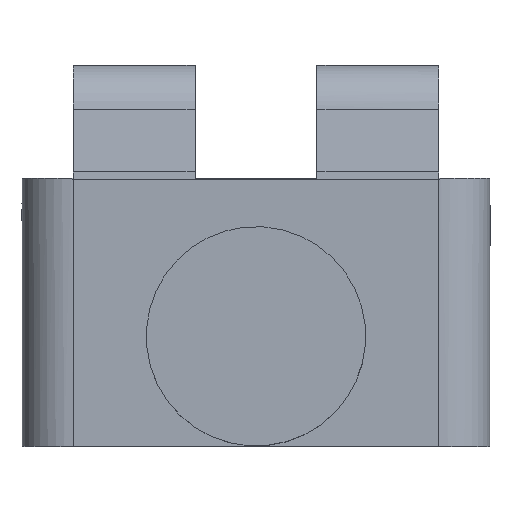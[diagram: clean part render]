
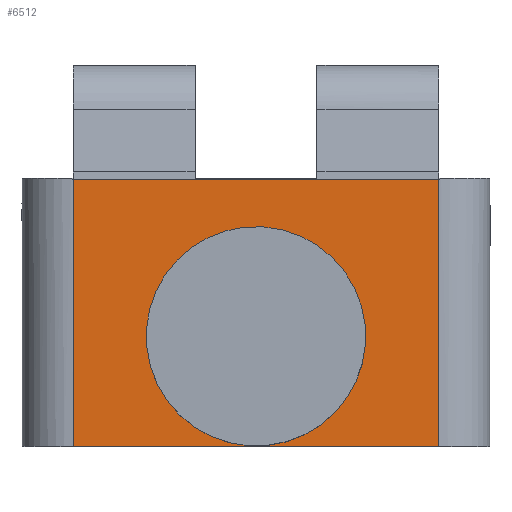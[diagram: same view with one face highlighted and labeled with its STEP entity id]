
A CAD part, top view. The second image highlights one B-rep face of the part: STEP entity #6512.
In plain terms, the highlighted planar face has unit normal (0, 0, 1).
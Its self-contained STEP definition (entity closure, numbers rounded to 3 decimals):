
#50 = VERTEX_POINT ( 'NONE', #1118 ) ;
#85 = ORIENTED_EDGE ( 'NONE', *, *, #7409, .T. ) ;
#377 = CARTESIAN_POINT ( 'NONE',  ( 2.5, -1., -0.4 ) ) ;
#406 = DIRECTION ( 'NONE',  ( -1., 0., 0. ) ) ;
#443 = LINE ( 'NONE', #2221, #7605 ) ;
#558 = CIRCLE ( 'NONE', #3148, 2.5 ) ;
#636 = CARTESIAN_POINT ( 'NONE',  ( 7.5, -5.5, -0.4 ) ) ;
#818 = EDGE_CURVE ( 'NONE', #3698, #4141, #558, .T. ) ;
#1118 = CARTESIAN_POINT ( 'NONE',  ( -7.5, -5.5, -0.4 ) ) ;
#1162 = CARTESIAN_POINT ( 'NONE',  ( -7.5, 5.465, -0.4 ) ) ;
#1166 = VERTEX_POINT ( 'NONE', #5200 ) ;
#1618 = FACE_BOUND ( 'NONE', #5995, .T. ) ;
#1647 = CARTESIAN_POINT ( 'NONE',  ( 0., -1., -0.4 ) ) ;
#1706 = DIRECTION ( 'NONE',  ( 1., 0., 0. ) ) ;
#2221 = CARTESIAN_POINT ( 'NONE',  ( -7.5, -5.5, -0.4 ) ) ;
#2332 = LINE ( 'NONE', #636, #7213 ) ;
#2437 = CARTESIAN_POINT ( 'NONE',  ( 7.5, 5.465, -0.4 ) ) ;
#2541 = EDGE_CURVE ( 'NONE', #4141, #3698, #3318, .T. ) ;
#2727 = FACE_OUTER_BOUND ( 'NONE', #3562, .T. ) ;
#3119 = EDGE_CURVE ( 'NONE', #1166, #5734, #2332, .T. ) ;
#3148 = AXIS2_PLACEMENT_3D ( 'NONE', #1647, #4702, #4082 ) ;
#3318 = CIRCLE ( 'NONE', #7633, 2.5 ) ;
#3349 = LINE ( 'NONE', #6940, #5384 ) ;
#3439 = CARTESIAN_POINT ( 'NONE',  ( 58.071, -5.5, -0.4 ) ) ;
#3442 = ORIENTED_EDGE ( 'NONE', *, *, #3119, .T. ) ;
#3562 = EDGE_LOOP ( 'NONE', ( #85, #5069, #3442, #3845 ) ) ;
#3642 = DIRECTION ( 'NONE',  ( 0., 1., 0. ) ) ;
#3698 = VERTEX_POINT ( 'NONE', #4800 ) ;
#3828 = VECTOR ( 'NONE', #1706, 1000. ) ;
#3845 = ORIENTED_EDGE ( 'NONE', *, *, #7254, .T. ) ;
#4082 = DIRECTION ( 'NONE',  ( -1., 0., 0. ) ) ;
#4141 = VERTEX_POINT ( 'NONE', #377 ) ;
#4235 = DIRECTION ( 'NONE',  ( 0., -1., 0. ) ) ;
#4702 = DIRECTION ( 'NONE',  ( 0., 0., -1. ) ) ;
#4800 = CARTESIAN_POINT ( 'NONE',  ( -2.5, -1., -0.4 ) ) ;
#4849 = VERTEX_POINT ( 'NONE', #1162 ) ;
#5069 = ORIENTED_EDGE ( 'NONE', *, *, #5675, .T. ) ;
#5092 = CARTESIAN_POINT ( 'NONE',  ( 58.071, -5.5, -0.4 ) ) ;
#5171 = DIRECTION ( 'NONE',  ( 0., -1., 0. ) ) ;
#5200 = CARTESIAN_POINT ( 'NONE',  ( 7.5, -5.5, -0.4 ) ) ;
#5384 = VECTOR ( 'NONE', #406, 1000. ) ;
#5675 = EDGE_CURVE ( 'NONE', #50, #1166, #6455, .T. ) ;
#5734 = VERTEX_POINT ( 'NONE', #2437 ) ;
#5995 = EDGE_LOOP ( 'NONE', ( #6120, #7047 ) ) ;
#6120 = ORIENTED_EDGE ( 'NONE', *, *, #818, .T. ) ;
#6329 = CARTESIAN_POINT ( 'NONE',  ( 0., -1., -0.4 ) ) ;
#6330 = PLANE ( 'NONE',  #7015 ) ;
#6455 = LINE ( 'NONE', #3439, #3828 ) ;
#6512 = ADVANCED_FACE ( 'NONE', ( #2727, #1618 ), #6330, .T. ) ;
#6940 = CARTESIAN_POINT ( 'NONE',  ( 58.071, 5.465, -0.4 ) ) ;
#7015 = AXIS2_PLACEMENT_3D ( 'NONE', #5092, #7492, #5171 ) ;
#7024 = DIRECTION ( 'NONE',  ( -1., 0., 0. ) ) ;
#7047 = ORIENTED_EDGE ( 'NONE', *, *, #2541, .T. ) ;
#7213 = VECTOR ( 'NONE', #3642, 1000. ) ;
#7254 = EDGE_CURVE ( 'NONE', #5734, #4849, #3349, .T. ) ;
#7409 = EDGE_CURVE ( 'NONE', #4849, #50, #443, .T. ) ;
#7492 = DIRECTION ( 'NONE',  ( 0., 0., 1. ) ) ;
#7564 = DIRECTION ( 'NONE',  ( 0., 0., -1. ) ) ;
#7605 = VECTOR ( 'NONE', #4235, 1000. ) ;
#7633 = AXIS2_PLACEMENT_3D ( 'NONE', #6329, #7564, #7024 ) ;
